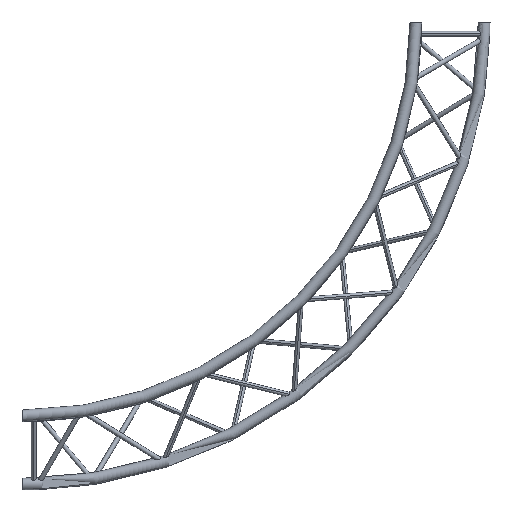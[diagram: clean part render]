
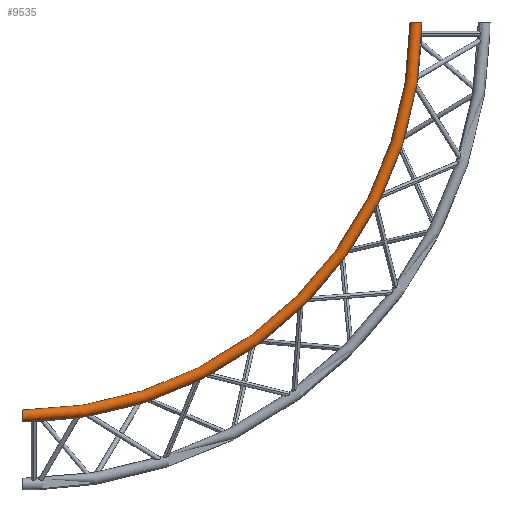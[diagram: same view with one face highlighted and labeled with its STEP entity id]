
A CAD part, front view. The second image highlights one B-rep face of the part: STEP entity #9535.
In plain terms, the highlighted toroidal (fillet/blend) face has major radius 1683.15 mm and minor radius 25 mm.
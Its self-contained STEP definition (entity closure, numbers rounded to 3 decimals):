
#7488 = DIRECTION ( 'NONE',  ( 0., 0., -1. ) ) ;
#7489 = DIRECTION ( 'NONE',  ( 0., -1., 0. ) ) ;
#7490 = CARTESIAN_POINT ( 'NONE',  ( 0., -168.5, 0. ) ) ;
#7491 = AXIS2_PLACEMENT_3D ( 'NONE', #7490, #7489, #7488 ) ;
#7492 = CIRCLE ( 'NONE', #7491, 1708.149 ) ;
#7535 = DIRECTION ( 'NONE',  ( 0., 0., -1. ) ) ;
#7536 = DIRECTION ( 'NONE',  ( 0., -1., 0. ) ) ;
#7537 = CARTESIAN_POINT ( 'NONE',  ( 0., -168.5, 0. ) ) ;
#7538 = AXIS2_PLACEMENT_3D ( 'NONE', #7537, #7536, #7535 ) ;
#7539 = CIRCLE ( 'NONE', #7538, 1658.149 ) ;
#7544 = CARTESIAN_POINT ( 'NONE',  ( 0., -168.5, -1658.149 ) ) ;
#7603 = CARTESIAN_POINT ( 'NONE',  ( 1683.149, -168.5, 0. ) ) ;
#7618 = CARTESIAN_POINT ( 'NONE',  ( 0., -168.5, -1708.149 ) ) ;
#7622 = CARTESIAN_POINT ( 'NONE',  ( 1658.149, -168.5, 0. ) ) ;
#7626 = DIRECTION ( 'NONE',  ( 1., 0., 0. ) ) ;
#7627 = DIRECTION ( 'NONE',  ( 0., 0., 1. ) ) ;
#7628 = AXIS2_PLACEMENT_3D ( 'NONE', #7603, #7627, #7626 ) ;
#7629 = CIRCLE ( 'NONE', #7628, 25. ) ;
#7694 = DIRECTION ( 'NONE',  ( 0., 0., -1. ) ) ;
#7695 = DIRECTION ( 'NONE',  ( 1., 0., 0. ) ) ;
#7696 = CARTESIAN_POINT ( 'NONE',  ( 0., -168.5, -1683.149 ) ) ;
#7697 = AXIS2_PLACEMENT_3D ( 'NONE', #7696, #7695, #7694 ) ;
#7701 = CIRCLE ( 'NONE', #7697, 25. ) ;
#7756 = FACE_OUTER_BOUND ( 'NONE', #9462, .T. ) ;
#7757 = AXIS2_PLACEMENT_3D ( 'NONE', #7776, #7775, #7774 ) ;
#7758 = TOROIDAL_SURFACE ( 'NONE', #7757, 1683.149, 25. ) ;
#7774 = DIRECTION ( 'NONE',  ( 0., 0., -1. ) ) ;
#7775 = DIRECTION ( 'NONE',  ( 0., -1., 0. ) ) ;
#7776 = CARTESIAN_POINT ( 'NONE',  ( 0., -168.5, 0. ) ) ;
#9199 = CARTESIAN_POINT ( 'NONE',  ( 1708.149, -168.5, 0. ) ) ;
#9437 = VERTEX_POINT ( 'NONE', #9199 ) ;
#9450 = ORIENTED_EDGE ( 'NONE', *, *, #9506, .T. ) ;
#9454 = ORIENTED_EDGE ( 'NONE', *, *, #9480, .F. ) ;
#9457 = EDGE_CURVE ( 'NONE', #9493, #9437, #7492, .T. ) ;
#9462 = EDGE_LOOP ( 'NONE', ( #9450, #9516, #9454, #9531 ) ) ;
#9467 = VERTEX_POINT ( 'NONE', #7544 ) ;
#9469 = EDGE_CURVE ( 'NONE', #9467, #9490, #7539, .T. ) ;
#9480 = EDGE_CURVE ( 'NONE', #9490, #9437, #7629, .T. ) ;
#9490 = VERTEX_POINT ( 'NONE', #7622 ) ;
#9493 = VERTEX_POINT ( 'NONE', #7618 ) ;
#9506 = EDGE_CURVE ( 'NONE', #9467, #9493, #7701, .T. ) ;
#9516 = ORIENTED_EDGE ( 'NONE', *, *, #9457, .T. ) ;
#9531 = ORIENTED_EDGE ( 'NONE', *, *, #9469, .F. ) ;
#9535 = ADVANCED_FACE ( 'NONE', ( #7756 ), #7758, .T. ) ;
